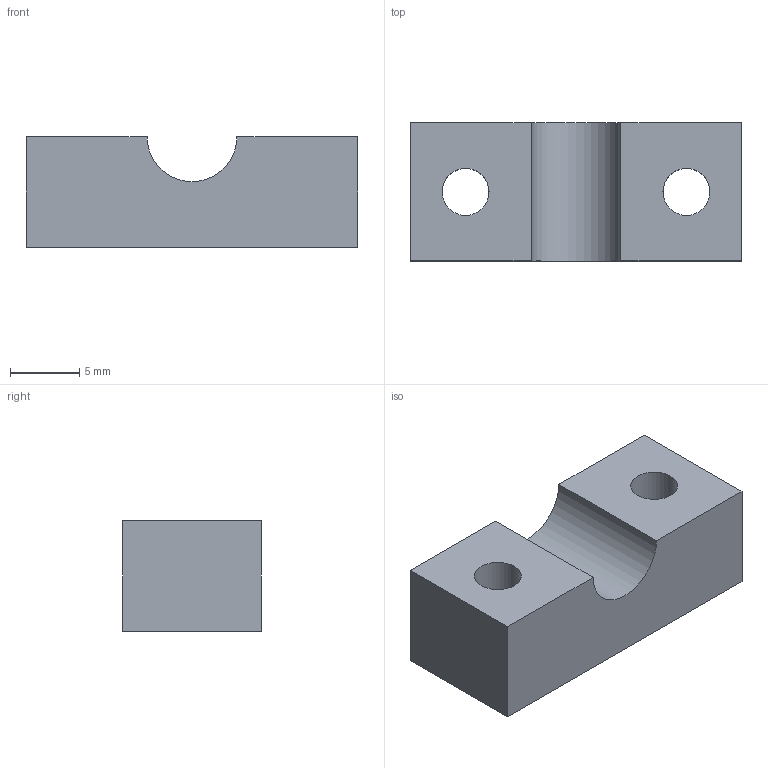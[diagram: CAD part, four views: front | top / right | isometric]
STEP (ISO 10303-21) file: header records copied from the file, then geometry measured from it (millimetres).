
FILE_DESCRIPTION(('FreeCAD Model'),'2;1');
FILE_NAME('Open CASCADE Shape Model','2026-11-07T00:59:45',('FreeCAD'),( 'FreeCAD'),'Open CASCADE STEP processor 7.8','FreeCAD','Unknown');
FILE_SCHEMA(('AUTOMOTIVE_DESIGN { 1 0 10303 214 1 1 1 1 }'));
Length unit declared in the file: millimetre
Products named in the file (1): Open CASCADE STEP translator 7.8 10
Bounding box: 24 x 10 x 8 mm (x, y, z)
Volume: 1608.8 mm3; surface area: 1162.5 mm2
Topology: 1 solids, 1 shells, 10 faces, 24 edges, 16 vertices
Faces by surface type: plane 7, cylinder 3
Full cylindrical faces by diameter (mm): 3.4 x2
Entity records: 312 total; most frequent: DIRECTION 52, CARTESIAN_POINT 51, ORIENTED_EDGE 48, EDGE_CURVE 24, LINE 18, VECTOR 18, AXIS2_PLACEMENT_3D 17, VERTEX_POINT 16
